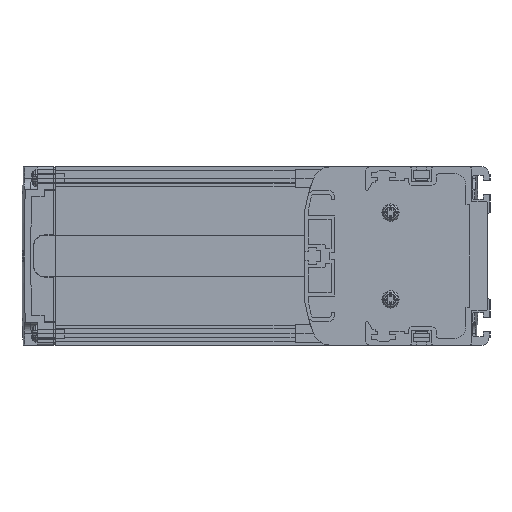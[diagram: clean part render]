
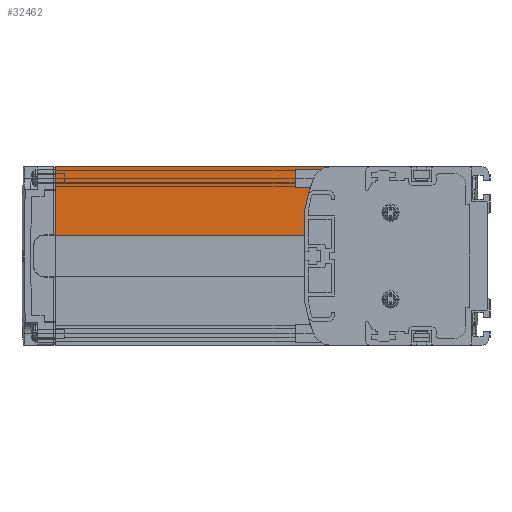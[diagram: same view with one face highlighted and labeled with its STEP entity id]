
A CAD part, left-side view. The second image highlights one B-rep face of the part: STEP entity #32462.
In plain terms, the highlighted planar face has unit normal (-1, 0, 0).
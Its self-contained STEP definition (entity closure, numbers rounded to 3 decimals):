
#5360=CARTESIAN_POINT('',(3.,79.,19.823));
#5361=DIRECTION('',(1.,0.,0.));
#5362=DIRECTION('',(0.,1.,0.));
#5363=AXIS2_PLACEMENT_3D('',#5360,#5361,#5362);
#5381=DIRECTION('',(0.,0.,-1.));
#5382=VECTOR('',#5381,10.723);
#5383=CARTESIAN_POINT('',(3.,81.,19.823));
#5384=LINE('',#5383,#5382);
#5765=CARTESIAN_POINT('',(3.,2.235,6.));
#5766=DIRECTION('',(1.,0.,0.));
#5767=DIRECTION('',(0.,0.984,0.177));
#5768=AXIS2_PLACEMENT_3D('',#5765,#5766,#5767);
#5778=DIRECTION('',(0.,0.,-1.));
#5779=VECTOR('',#5778,29.9);
#5780=CARTESIAN_POINT('',(3.,190.,39.));
#5781=LINE('',#5780,#5779);
#7853=DIRECTION('',(0.,-1.,0.));
#7854=VECTOR('',#7853,109.);
#7855=CARTESIAN_POINT('',(3.,190.,9.1));
#7856=LINE('',#7855,#7854);
#10645=DIRECTION('',(0.,-1.,0.));
#10646=VECTOR('',#10645,120.245);
#10647=CARTESIAN_POINT('',(3.,190.,39.));
#10648=LINE('',#10647,#10646);
#11720=CARTESIAN_POINT('',(3.,69.755,31.));
#11721=DIRECTION('',(-1.,0.,0.));
#11722=DIRECTION('',(0.,0.,1.));
#11723=AXIS2_PLACEMENT_3D('',#11720,#11721,#11722);
#19624=CARTESIAN_POINT('',(3.,190.,39.));
#19625=VERTEX_POINT('',#19624);
#19626=CARTESIAN_POINT('',(3.,190.,9.1));
#19627=VERTEX_POINT('',#19626);
#24043=CARTESIAN_POINT('',(3.,81.,9.1));
#24044=VERTEX_POINT('',#24043);
#24085=CARTESIAN_POINT('',(3.,69.755,39.));
#24086=CARTESIAN_POINT('',(3.,77.257,33.778));
#24087=VERTEX_POINT('',#24085);
#24088=VERTEX_POINT('',#24086);
#24089=CARTESIAN_POINT('',(3.,80.968,20.177));
#24090=VERTEX_POINT('',#24089);
#24091=CARTESIAN_POINT('',(3.,81.,19.823));
#24092=VERTEX_POINT('',#24091);
#32444=CARTESIAN_POINT('',(3.,105.,24.05));
#32445=DIRECTION('',(1.,0.,0.));
#32446=DIRECTION('',(0.,0.,1.));
#32447=AXIS2_PLACEMENT_3D('',#32444,#32445,#32446);
#32448=PLANE('',#32447);
#32450=ORIENTED_EDGE('',*,*,#32449,.T.);
#32451=ORIENTED_EDGE('',*,*,#32396,.F.);
#32452=ORIENTED_EDGE('',*,*,#31825,.F.);
#32453=ORIENTED_EDGE('',*,*,#31843,.T.);
#32455=ORIENTED_EDGE('',*,*,#32454,.F.);
#32457=ORIENTED_EDGE('',*,*,#32456,.F.);
#32459=ORIENTED_EDGE('',*,*,#32458,.T.);
#32460=EDGE_LOOP('',(#32450,#32451,#32452,#32453,#32455,#32457,#32459));
#32461=FACE_OUTER_BOUND('',#32460,.F.);
#32462=ADVANCED_FACE('',(#32461),#32448,.F.);
#5364=CIRCLE('',#5363,2.);
#5769=CIRCLE('',#5768,80.);
#11724=CIRCLE('',#11723,8.);
#31825=EDGE_CURVE('',#24092,#24090,#5364,.T.);
#31843=EDGE_CURVE('',#24092,#24044,#5384,.T.);
#32396=EDGE_CURVE('',#24090,#24088,#5769,.T.);
#32449=EDGE_CURVE('',#24087,#24088,#11724,.T.);
#32454=EDGE_CURVE('',#19627,#24044,#7856,.T.);
#32456=EDGE_CURVE('',#19625,#19627,#5781,.T.);
#32458=EDGE_CURVE('',#19625,#24087,#10648,.T.);
